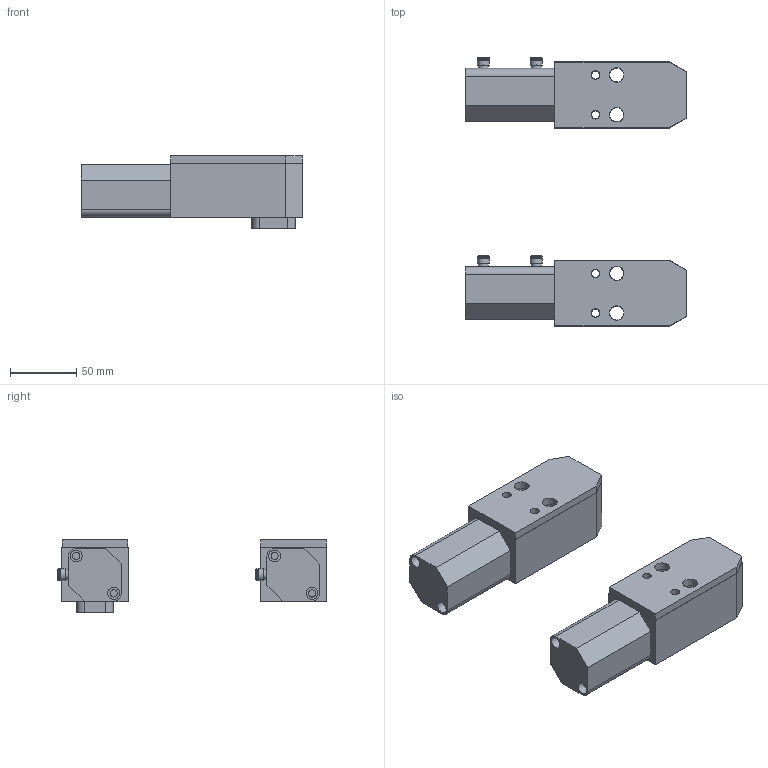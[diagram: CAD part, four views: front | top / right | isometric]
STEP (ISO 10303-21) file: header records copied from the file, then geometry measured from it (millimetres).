
FILE_DESCRIPTION(('STEP AP214'),'1');
FILE_NAME('1002.0013.stp','2020-05-22T14:12:24',(' '),(' '),'Spatial InterOp 3D',' ',' ');
FILE_SCHEMA(('AUTOMOTIVE_DESIGN { 1 0 10303 214 1 1 1 1 }'));
Length unit declared in the file: millimetre
Products named in the file (7): (PMS) 1002.0013; 4; 3; Assemblato; (PMI) 1002.0013; 6; 1
Assembly tree (6 placements, depth 3):
  Assemblato
    (PMS) 1002.0013
      4
      3
    (PMI) 1002.0013
      6
      1
Bounding box: 167.5 x 203.25 x 55 mm (x, y, z)
Volume: 602580.2 mm3; surface area: 110401.7 mm2
Topology: 4 solids, 4 shells, 782 faces, 2076 edges, 1384 vertices
Faces by surface type: extrusion 398, plane 260, cylinder 106, torus 12, cone 4, sphere 2
Full cylindrical faces by diameter (mm): 5.5 x4, 6 x4, 6.5 x4, 6.8 x4, 7.5 x8, 9 x12, 10.5 x4, 11 x4, 13 x2, 16.9 x4
Entity records: 30780 total; most frequent: CARTESIAN_POINT 6603, ORIENTED_EDGE 3980, DIRECTION 2604, EDGE_CURVE 1990, VERTEX_POINT 1366, VECTOR 1362, B_SPLINE_CURVE_WITH_KNOTS 1196, LINE 964
